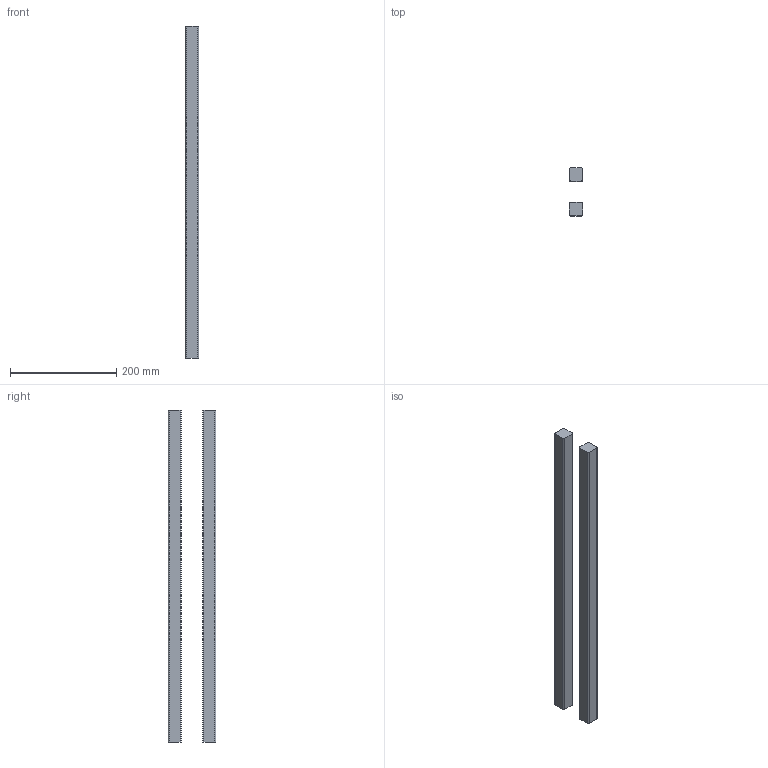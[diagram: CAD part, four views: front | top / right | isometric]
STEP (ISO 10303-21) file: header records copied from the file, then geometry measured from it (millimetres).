
FILE_DESCRIPTION (( 'STEP AP214' ), '1' );
FILE_NAME ('702418.STEP', '2025-10-01T09:25:42', ( '' ), ( '' ), 'SwSTEP 2.0', 'SolidWorks 2025', '' );
FILE_SCHEMA (( 'AUTOMOTIVE_DESIGN' ));
Length unit declared in the file: millimetre
Products named in the file (1): 702418
Bounding box: 25 x 90 x 625 mm (x, y, z)
Volume: 774543.7 mm3; surface area: 122113.5 mm2
Topology: 2 solids, 2 shells, 20 faces, 48 edges, 32 vertices
Faces by surface type: plane 12, cylinder 8
Entity records: 620 total; most frequent: DIRECTION 106, CARTESIAN_POINT 101, ORIENTED_EDGE 96, EDGE_CURVE 48, AXIS2_PLACEMENT_3D 37, VERTEX_POINT 32, LINE 32, VECTOR 32
